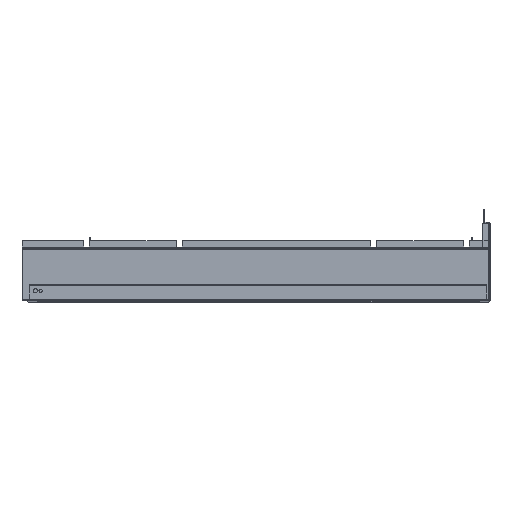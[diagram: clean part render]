
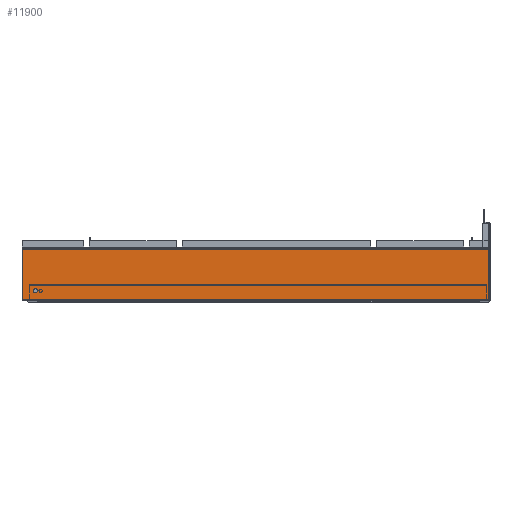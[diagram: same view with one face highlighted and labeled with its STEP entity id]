
A CAD part, top view. The second image highlights one B-rep face of the part: STEP entity #11900.
In plain terms, the highlighted planar face has unit normal (0, 0, 1) as drawn and (1, 0, 0) by its records, which use the part's own axes.
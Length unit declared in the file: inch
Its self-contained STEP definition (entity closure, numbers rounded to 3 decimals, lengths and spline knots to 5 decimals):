
#103 = CARTESIAN_POINT ( 'NONE',  ( 0.098, 3.4325, 0.85687 ) ) ;
#121 = DIRECTION ( 'NONE',  ( -1., 0., 0. ) ) ;
#161 = DIRECTION ( 'NONE',  ( 0., 1., 0. ) ) ;
#607 = VERTEX_POINT ( 'NONE', #3993 ) ;
#798 = EDGE_CURVE ( 'NONE', #1125, #6091, #15488, .T. ) ;
#1125 = VERTEX_POINT ( 'NONE', #6124 ) ;
#1614 = CIRCLE ( 'NONE', #7375, 0.125 ) ;
#2400 = EDGE_LOOP ( 'NONE', ( #16221, #4163 ) ) ;
#2515 = CARTESIAN_POINT ( 'NONE',  ( 0.098, 3.3075, 0.85687 ) ) ;
#2658 = FACE_BOUND ( 'NONE', #2400, .T. ) ;
#2760 = EDGE_CURVE ( 'NONE', #10094, #10199, #9600, .T. ) ;
#2808 = FACE_OUTER_BOUND ( 'NONE', #5117, .T. ) ;
#2930 = ORIENTED_EDGE ( 'NONE', *, *, #3592, .T. ) ;
#3592 = EDGE_CURVE ( 'NONE', #1125, #8810, #6963, .T. ) ;
#3993 = CARTESIAN_POINT ( 'NONE',  ( 0.098, 0.76425, 29.84338 ) ) ;
#4163 = ORIENTED_EDGE ( 'NONE', *, *, #18145, .T. ) ;
#4785 = CARTESIAN_POINT ( 'NONE',  ( 0.098, 3.5575, 0.85687 ) ) ;
#5061 = DIRECTION ( 'NONE',  ( 0., -1., 0. ) ) ;
#5073 = CARTESIAN_POINT ( 'NONE',  ( 0.098, 0.76425, 0. ) ) ;
#5117 = EDGE_LOOP ( 'NONE', ( #9952, #11517, #2930, #12294 ) ) ;
#5317 = CARTESIAN_POINT ( 'NONE',  ( 0.098, 0.67938, 0. ) ) ;
#5567 = DIRECTION ( 'NONE',  ( 0., 0., 1. ) ) ;
#6091 = VERTEX_POINT ( 'NONE', #5073 ) ;
#6124 = CARTESIAN_POINT ( 'NONE',  ( 0.098, 3.995, 0. ) ) ;
#6475 = VECTOR ( 'NONE', #9679, 39.37008 ) ;
#6496 = LINE ( 'NONE', #17706, #6475 ) ;
#6611 = PLANE ( 'NONE',  #15519 ) ;
#6921 = VECTOR ( 'NONE', #5567, 39.37008 ) ;
#6963 = LINE ( 'NONE', #15604, #6921 ) ;
#7375 = AXIS2_PLACEMENT_3D ( 'NONE', #13050, #12811, #12730 ) ;
#8810 = VERTEX_POINT ( 'NONE', #15330 ) ;
#9529 = LINE ( 'NONE', #17666, #9653 ) ;
#9600 = CIRCLE ( 'NONE', #15097, 0.125 ) ;
#9653 = VECTOR ( 'NONE', #17946, 39.37008 ) ;
#9679 = DIRECTION ( 'NONE',  ( 0., 0., 1. ) ) ;
#9952 = ORIENTED_EDGE ( 'NONE', *, *, #10656, .F. ) ;
#10094 = VERTEX_POINT ( 'NONE', #4785 ) ;
#10199 = VERTEX_POINT ( 'NONE', #2515 ) ;
#10655 = CARTESIAN_POINT ( 'NONE',  ( 0.098, 3.995, 29.89025 ) ) ;
#10656 = EDGE_CURVE ( 'NONE', #6091, #607, #6496, .T. ) ;
#11517 = ORIENTED_EDGE ( 'NONE', *, *, #798, .F. ) ;
#11900 = ADVANCED_FACE ( 'NONE', ( #2808, #2658 ), #6611, .F. ) ;
#12294 = ORIENTED_EDGE ( 'NONE', *, *, #15266, .F. ) ;
#12730 = DIRECTION ( 'NONE',  ( 0., 1., 0. ) ) ;
#12811 = DIRECTION ( 'NONE',  ( -1., 0., 0. ) ) ;
#13050 = CARTESIAN_POINT ( 'NONE',  ( 0.098, 3.4325, 0.85687 ) ) ;
#14599 = DIRECTION ( 'NONE',  ( -1., 0., 0. ) ) ;
#15097 = AXIS2_PLACEMENT_3D ( 'NONE', #103, #121, #161 ) ;
#15266 = EDGE_CURVE ( 'NONE', #607, #8810, #9529, .T. ) ;
#15330 = CARTESIAN_POINT ( 'NONE',  ( 0.098, 3.995, 29.84338 ) ) ;
#15445 = VECTOR ( 'NONE', #17467, 39.37008 ) ;
#15488 = LINE ( 'NONE', #5317, #15445 ) ;
#15519 = AXIS2_PLACEMENT_3D ( 'NONE', #10655, #14599, #5061 ) ;
#15604 = CARTESIAN_POINT ( 'NONE',  ( 0.098, 3.995, 29.89025 ) ) ;
#16221 = ORIENTED_EDGE ( 'NONE', *, *, #2760, .T. ) ;
#17467 = DIRECTION ( 'NONE',  ( 0., -1., 0. ) ) ;
#17666 = CARTESIAN_POINT ( 'NONE',  ( 0.098, 3.995, 29.84338 ) ) ;
#17706 = CARTESIAN_POINT ( 'NONE',  ( 0.098, 0.76425, 29.89025 ) ) ;
#17946 = DIRECTION ( 'NONE',  ( 0., 1., 0. ) ) ;
#18145 = EDGE_CURVE ( 'NONE', #10199, #10094, #1614, .T. ) ;
